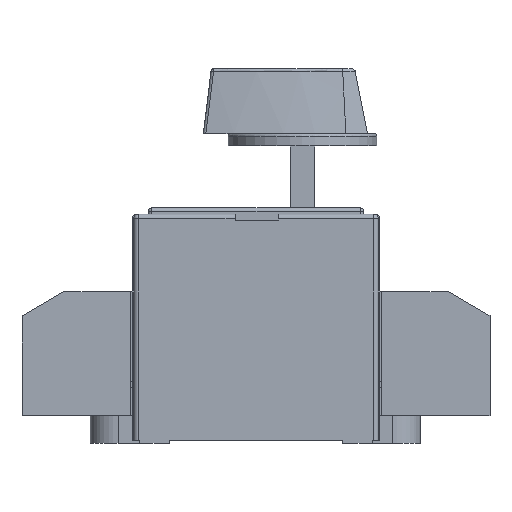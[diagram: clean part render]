
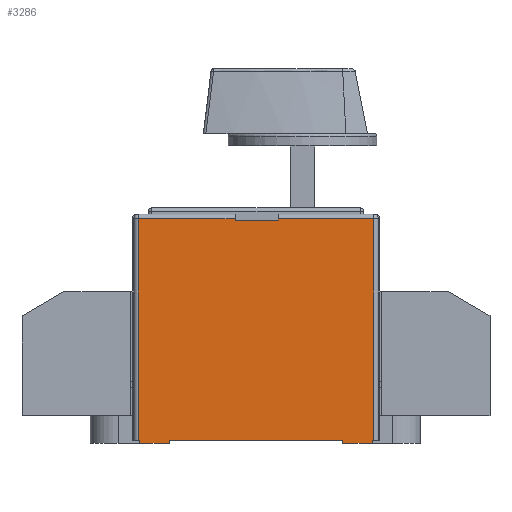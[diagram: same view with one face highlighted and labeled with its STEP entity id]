
A CAD part, left-side view. The second image highlights one B-rep face of the part: STEP entity #3286.
In plain terms, the highlighted planar face has unit normal (-1, 0, 0).
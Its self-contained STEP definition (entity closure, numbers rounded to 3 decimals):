
#350=PLANE('',#9777);
#798=FACE_OUTER_BOUND('',#4048,.T.);
#1408=LINE('',#14014,#2402);
#1457=LINE('',#14131,#2451);
#1459=LINE('',#14137,#2453);
#1538=LINE('',#14486,#2532);
#1555=LINE('',#14573,#2549);
#1599=LINE('',#14671,#2593);
#1604=LINE('',#14683,#2598);
#1606=LINE('',#14686,#2600);
#1612=LINE('',#14699,#2606);
#1776=LINE('',#15029,#2770);
#1782=LINE('',#15040,#2776);
#1783=LINE('',#15044,#2777);
#1784=LINE('',#15046,#2778);
#1785=LINE('',#15048,#2779);
#1786=LINE('',#15049,#2780);
#1787=LINE('',#15050,#2781);
#2402=VECTOR('',#11178,1.);
#2451=VECTOR('',#11263,1.);
#2453=VECTOR('',#11269,1.);
#2532=VECTOR('',#11586,1.);
#2549=VECTOR('',#11703,1.);
#2593=VECTOR('',#11801,1.);
#2598=VECTOR('',#11808,1.);
#2600=VECTOR('',#11812,1.);
#2606=VECTOR('',#11820,1.);
#2770=VECTOR('',#12116,1.);
#2776=VECTOR('',#12128,1.);
#2777=VECTOR('',#12133,1.);
#2778=VECTOR('',#12134,1.);
#2779=VECTOR('',#12135,1.);
#2780=VECTOR('',#12136,1.);
#2781=VECTOR('',#12137,1.);
#3286=ADVANCED_FACE('',(#798),#350,.F.);
#4048=EDGE_LOOP('',(#6207,#6208,#6209,#6210,#6211,#6212,#6213,#6214,#6215,
#6216,#6217,#6218,#6219,#6220,#6221,#6222));
#6207=ORIENTED_EDGE('',*,*,#8717,.F.);
#6208=ORIENTED_EDGE('',*,*,#8470,.T.);
#6209=ORIENTED_EDGE('',*,*,#8272,.T.);
#6210=ORIENTED_EDGE('',*,*,#8216,.F.);
#6211=ORIENTED_EDGE('',*,*,#8275,.T.);
#6212=ORIENTED_EDGE('',*,*,#8427,.T.);
#6213=ORIENTED_EDGE('',*,*,#8719,.T.);
#6214=ORIENTED_EDGE('',*,*,#8720,.T.);
#6215=ORIENTED_EDGE('',*,*,#8721,.F.);
#6216=ORIENTED_EDGE('',*,*,#8520,.F.);
#6217=ORIENTED_EDGE('',*,*,#8525,.T.);
#6218=ORIENTED_EDGE('',*,*,#8722,.T.);
#6219=ORIENTED_EDGE('',*,*,#8533,.F.);
#6220=ORIENTED_EDGE('',*,*,#8527,.F.);
#6221=ORIENTED_EDGE('',*,*,#8711,.T.);
#6222=ORIENTED_EDGE('',*,*,#8723,.T.);
#7176=VERTEX_POINT('',#14013);
#7177=VERTEX_POINT('',#14015);
#7223=VERTEX_POINT('',#14132);
#7225=VERTEX_POINT('',#14138);
#7332=VERTEX_POINT('',#14481);
#7333=VERTEX_POINT('',#14485);
#7381=VERTEX_POINT('',#14672);
#7382=VERTEX_POINT('',#14673);
#7386=VERTEX_POINT('',#14682);
#7387=VERTEX_POINT('',#14687);
#7388=VERTEX_POINT('',#14688);
#7391=VERTEX_POINT('',#14696);
#7492=VERTEX_POINT('',#15028);
#7495=VERTEX_POINT('',#15041);
#7496=VERTEX_POINT('',#15045);
#7497=VERTEX_POINT('',#15047);
#8216=EDGE_CURVE('',#7176,#7177,#1408,.T.);
#8272=EDGE_CURVE('',#7223,#7177,#1457,.T.);
#8275=EDGE_CURVE('',#7176,#7225,#1459,.T.);
#8427=EDGE_CURVE('',#7225,#7333,#1538,.T.);
#8470=EDGE_CURVE('',#7332,#7223,#1555,.T.);
#8520=EDGE_CURVE('',#7381,#7382,#1599,.T.);
#8525=EDGE_CURVE('',#7381,#7386,#1604,.T.);
#8527=EDGE_CURVE('',#7387,#7388,#1606,.T.);
#8533=EDGE_CURVE('',#7388,#7391,#1612,.T.);
#8711=EDGE_CURVE('',#7387,#7492,#1776,.T.);
#8717=EDGE_CURVE('',#7332,#7495,#1782,.T.);
#8719=EDGE_CURVE('',#7333,#7496,#1783,.T.);
#8720=EDGE_CURVE('',#7496,#7497,#1784,.T.);
#8721=EDGE_CURVE('',#7382,#7497,#1785,.T.);
#8722=EDGE_CURVE('',#7386,#7391,#1786,.T.);
#8723=EDGE_CURVE('',#7492,#7495,#1787,.T.);
#9777=AXIS2_PLACEMENT_3D('',#15051,#12138,#12139);
#11178=DIRECTION('',(0.,-1.,0.));
#11263=DIRECTION('',(0.,0.,-1.));
#11269=DIRECTION('',(0.,0.,1.));
#11586=DIRECTION('',(0.,1.,0.));
#11703=DIRECTION('',(0.,1.,0.));
#11801=DIRECTION('',(0.,1.,0.));
#11808=DIRECTION('',(0.,0.,1.));
#11812=DIRECTION('',(0.,1.,0.));
#11820=DIRECTION('',(0.,0.,1.));
#12116=DIRECTION('',(0.,0.,1.));
#12128=DIRECTION('',(0.,0.,-1.));
#12133=DIRECTION('',(0.,0.,-1.));
#12134=DIRECTION('',(0.,-1.,0.));
#12135=DIRECTION('',(0.,0.,1.));
#12136=DIRECTION('',(0.,-1.,0.));
#12137=DIRECTION('',(0.,-1.,0.));
#12138=DIRECTION('',(1.,0.,0.));
#12139=DIRECTION('',(0.,0.,-1.));
#14013=CARTESIAN_POINT('',(-69.,-17.985,67.));
#14014=CARTESIAN_POINT('',(-69.,12.765,67.));
#14015=CARTESIAN_POINT('',(-69.,-31.985,67.));
#14131=CARTESIAN_POINT('',(-69.,-31.985,69.1));
#14132=CARTESIAN_POINT('',(-69.,-31.985,67.6));
#14137=CARTESIAN_POINT('',(-69.,-17.985,69.1));
#14138=CARTESIAN_POINT('',(-69.,-17.985,67.6));
#14481=CARTESIAN_POINT('',(-69.,-62.735,67.6));
#14485=CARTESIAN_POINT('',(-69.,13.265,67.6));
#14486=CARTESIAN_POINT('',(-69.,13.265,67.6));
#14573=CARTESIAN_POINT('',(-69.,13.265,67.6));
#14671=CARTESIAN_POINT('',(-69.,3.265,-4.9));
#14672=CARTESIAN_POINT('',(-69.,3.265,-4.9));
#14673=CARTESIAN_POINT('',(-69.,12.765,-4.9));
#14682=CARTESIAN_POINT('',(-69.,3.265,-3.9));
#14683=CARTESIAN_POINT('',(-69.,3.265,-5.9));
#14686=CARTESIAN_POINT('',(-69.,-62.235,-4.9));
#14687=CARTESIAN_POINT('',(-69.,-62.235,-4.9));
#14688=CARTESIAN_POINT('',(-69.,-52.735,-4.9));
#14696=CARTESIAN_POINT('',(-69.,-52.735,-3.9));
#14699=CARTESIAN_POINT('',(-69.,-52.735,-5.9));
#15028=CARTESIAN_POINT('',(-69.,-62.235,-3.9));
#15029=CARTESIAN_POINT('',(-69.,-62.235,-5.9));
#15040=CARTESIAN_POINT('',(-69.,-62.735,69.1));
#15041=CARTESIAN_POINT('',(-69.,-62.735,-3.9));
#15044=CARTESIAN_POINT('',(-69.,13.265,69.1));
#15045=CARTESIAN_POINT('',(-69.,13.265,-3.9));
#15046=CARTESIAN_POINT('',(-69.,-62.235,-3.9));
#15047=CARTESIAN_POINT('',(-69.,12.765,-3.9));
#15048=CARTESIAN_POINT('',(-69.,12.765,-5.9));
#15049=CARTESIAN_POINT('',(-69.,-62.235,-3.9));
#15050=CARTESIAN_POINT('',(-69.,-62.235,-3.9));
#15051=CARTESIAN_POINT('',(-69.,-62.235,69.1));
